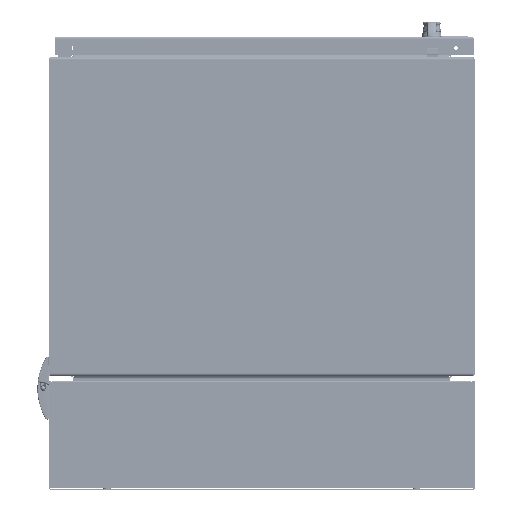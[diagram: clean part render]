
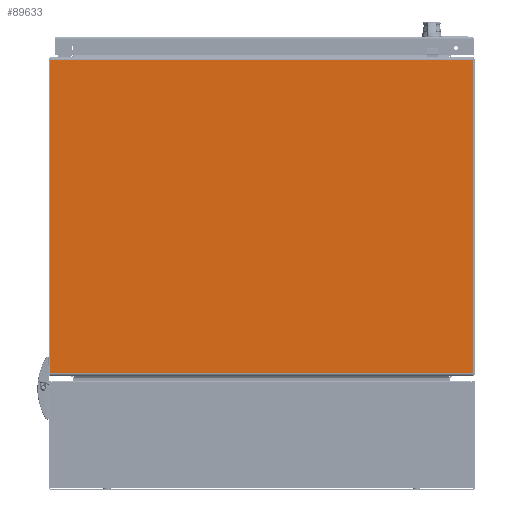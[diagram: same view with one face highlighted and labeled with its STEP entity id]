
A CAD part, front view. The second image highlights one B-rep face of the part: STEP entity #89633.
In plain terms, the highlighted planar face has unit normal (0, -1, 0).
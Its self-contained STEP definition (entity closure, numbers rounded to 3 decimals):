
#53077 = CARTESIAN_POINT ( 'NONE',  ( 298.171, 0., -225. ) ) ;
#53081 = DIRECTION ( 'NONE',  ( 0., 0., -1. ) ) ;
#53088 = CARTESIAN_POINT ( 'NONE',  ( 298.171, 0., 220.885 ) ) ;
#53089 = DIRECTION ( 'NONE',  ( -1., 0., 0. ) ) ;
#53092 = CARTESIAN_POINT ( 'NONE',  ( -298.171, 0., -225. ) ) ;
#53098 = DIRECTION ( 'NONE',  ( 0., 0., 1. ) ) ;
#53106 = CARTESIAN_POINT ( 'NONE',  ( -298.171, 0., -220.885 ) ) ;
#53107 = DIRECTION ( 'NONE',  ( 1., 0., 0. ) ) ;
#73975 = LINE ( 'NONE', #53077, #73978 ) ;
#73978 = VECTOR ( 'NONE', #53081, 1000. ) ;
#73984 = LINE ( 'NONE', #53088, #73985 ) ;
#73985 = VECTOR ( 'NONE', #53089, 1000. ) ;
#73987 = VECTOR ( 'NONE', #53107, 1000. ) ;
#73989 = VECTOR ( 'NONE', #53098, 1000. ) ;
#73991 = LINE ( 'NONE', #53092, #73989 ) ;
#73994 = LINE ( 'NONE', #53106, #73987 ) ;
#75490 = FACE_OUTER_BOUND ( 'NONE', #110291, .T. ) ;
#89633 = ADVANCED_FACE ( 'NONE', ( #75490 ), #119373, .F. ) ;
#110291 = EDGE_LOOP ( 'NONE', ( #155262, #155266, #155271, #155275 ) ) ;
#114836 = EDGE_CURVE ( 'NONE', #150660, #150662, #73975, .T. ) ;
#114845 = EDGE_CURVE ( 'NONE', #150660, #150656, #73984, .T. ) ;
#114855 = EDGE_CURVE ( 'NONE', #150658, #150656, #73991, .T. ) ;
#114864 = EDGE_CURVE ( 'NONE', #150658, #150662, #73994, .T. ) ;
#119368 = CARTESIAN_POINT ( 'NONE',  ( 298.171, 0., 225. ) ) ;
#119373 = PLANE ( 'NONE',  #163926 ) ;
#119378 = DIRECTION ( 'NONE',  ( 0., 1., 0. ) ) ;
#119379 = DIRECTION ( 'NONE',  ( 0., 0., 1. ) ) ;
#142817 = CARTESIAN_POINT ( 'NONE',  ( -298.171, 0., 220.885 ) ) ;
#142823 = CARTESIAN_POINT ( 'NONE',  ( -298.171, 0., -220.885 ) ) ;
#142829 = CARTESIAN_POINT ( 'NONE',  ( 298.171, 0., 220.885 ) ) ;
#142835 = CARTESIAN_POINT ( 'NONE',  ( 298.171, 0., -220.885 ) ) ;
#150656 = VERTEX_POINT ( 'NONE', #142817 ) ;
#150658 = VERTEX_POINT ( 'NONE', #142823 ) ;
#150660 = VERTEX_POINT ( 'NONE', #142829 ) ;
#150662 = VERTEX_POINT ( 'NONE', #142835 ) ;
#155262 = ORIENTED_EDGE ( 'NONE', *, *, #114864, .T. ) ;
#155266 = ORIENTED_EDGE ( 'NONE', *, *, #114836, .F. ) ;
#155271 = ORIENTED_EDGE ( 'NONE', *, *, #114845, .T. ) ;
#155275 = ORIENTED_EDGE ( 'NONE', *, *, #114855, .F. ) ;
#163926 = AXIS2_PLACEMENT_3D ( 'NONE', #119368, #119378, #119379 ) ;
